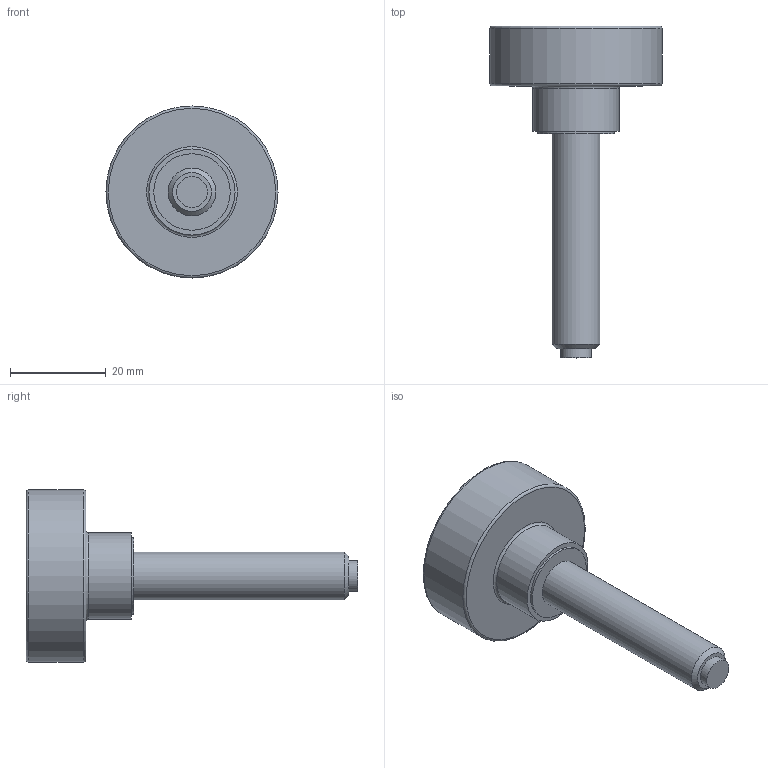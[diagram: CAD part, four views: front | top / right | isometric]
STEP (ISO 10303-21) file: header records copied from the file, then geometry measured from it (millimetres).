
FILE_DESCRIPTION( ( 'STEP AP203' ), '1' );
FILE_NAME( 'C:/Temp/Ganter_Step_05_03_2020/data/2_2/gn_421_10/Hollow knurled knob, with tip GN 421.10-M10-45-KU.stp', '2020-03-05T12:25:37', ( 'License CC BY-ND 4.0' ), ( 'CADENAS' ), ' ', 'PARTsolutions', ' ' );
FILE_SCHEMA( ( 'CONFIG_CONTROL_DESIGN' ) );
Length unit declared in the file: millimetre
Products named in the file (1): _Hollow knurled knob, with tip GN 421.10-M10-45-KU
Bounding box: 36 x 69.4 x 36 mm (x, y, z)
Volume: 12848.5 mm3; surface area: 6288.7 mm2
Topology: 1 solids, 1 shells, 19 faces, 30 edges, 19 vertices
Faces by surface type: plane 8, cylinder 7, torus 3, cone 1
Full cylindrical faces by diameter (mm): 6.5 x1, 10 x1, 14 x1, 16 x1, 18 x1, 31 x1, 36 x1
Entity records: 418 total; most frequent: DIRECTION 76, CARTESIAN_POINT 56, AXIS2_PLACEMENT_3D 38, EDGE_LOOP 36, ORIENTED_EDGE 36, FACE_OUTER_BOUND 29, ADVANCED_FACE 19, EDGE_CURVE 18
